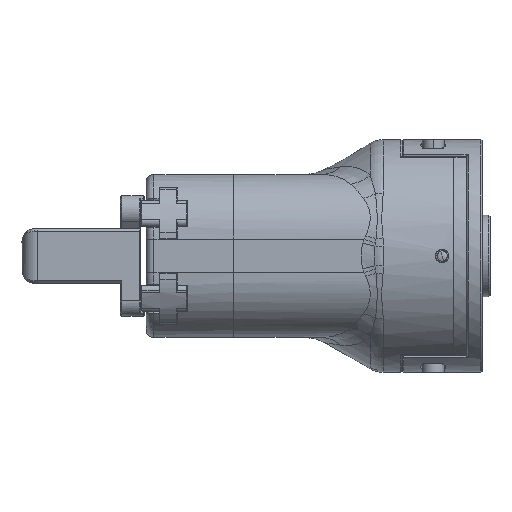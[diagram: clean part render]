
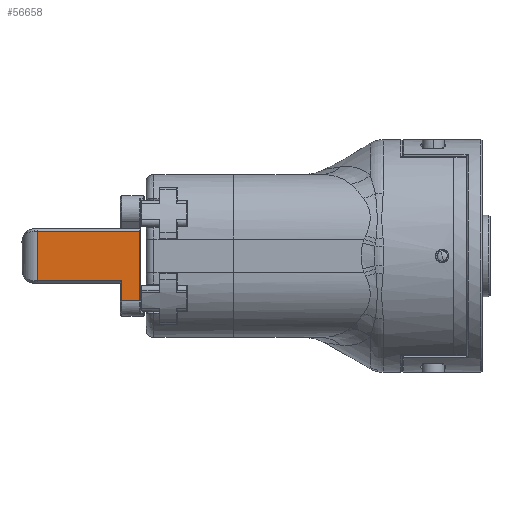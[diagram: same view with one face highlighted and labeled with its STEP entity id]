
A CAD part, left-side view. The second image highlights one B-rep face of the part: STEP entity #56658.
In plain terms, the highlighted planar face has unit normal (-1, 0, 0).
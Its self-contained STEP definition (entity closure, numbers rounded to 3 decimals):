
#67 = DIRECTION ( 'NONE',  ( 0., 0., -1. ) ) ;
#382 = CARTESIAN_POINT ( 'NONE',  ( -109.073, 45.646, 256.64 ) ) ;
#2222 = EDGE_LOOP ( 'NONE', ( #22299, #39744, #34264, #59967, #16916, #19756 ) ) ;
#3077 = DIRECTION ( 'NONE',  ( 0., 0., -1. ) ) ;
#3736 = LINE ( 'NONE', #33126, #32130 ) ;
#3967 = DIRECTION ( 'NONE',  ( 0., 0., 1. ) ) ;
#4394 = DIRECTION ( 'NONE',  ( 0., 1., 0. ) ) ;
#5394 = VERTEX_POINT ( 'NONE', #16312 ) ;
#5443 = CARTESIAN_POINT ( 'NONE',  ( -109.073, 45.646, 270.44 ) ) ;
#9751 = CARTESIAN_POINT ( 'NONE',  ( -109.073, 77.646, 300.44 ) ) ;
#9993 = DIRECTION ( 'NONE',  ( 1., 0., 0. ) ) ;
#11465 = EDGE_CURVE ( 'NONE', #5394, #57097, #38975, .T. ) ;
#12239 = VERTEX_POINT ( 'NONE', #58911 ) ;
#16013 = VECTOR ( 'NONE', #42762, 1000. ) ;
#16312 = CARTESIAN_POINT ( 'NONE',  ( -109.073, 38.146, 262.64 ) ) ;
#16387 = CARTESIAN_POINT ( 'NONE',  ( -109.073, 45.146, 270.44 ) ) ;
#16916 = ORIENTED_EDGE ( 'NONE', *, *, #50567, .T. ) ;
#17193 = EDGE_CURVE ( 'NONE', #18089, #51622, #23983, .T. ) ;
#18089 = VERTEX_POINT ( 'NONE', #23658 ) ;
#19756 = ORIENTED_EDGE ( 'NONE', *, *, #63909, .T. ) ;
#22299 = ORIENTED_EDGE ( 'NONE', *, *, #39552, .T. ) ;
#23658 = CARTESIAN_POINT ( 'NONE',  ( -109.073, 77.646, 289.54 ) ) ;
#23983 = LINE ( 'NONE', #9751, #29907 ) ;
#25701 = CARTESIAN_POINT ( 'NONE',  ( -109.073, 77.646, 270.44 ) ) ;
#26016 = VECTOR ( 'NONE', #3967, 1000. ) ;
#26414 = CARTESIAN_POINT ( 'NONE',  ( -109.073, 38.146, 289.54 ) ) ;
#29907 = VECTOR ( 'NONE', #43753, 1000. ) ;
#30266 = LINE ( 'NONE', #5443, #45888 ) ;
#31915 = CARTESIAN_POINT ( 'NONE',  ( -109.073, 45.646, 262.64 ) ) ;
#32130 = VECTOR ( 'NONE', #3077, 1000. ) ;
#33126 = CARTESIAN_POINT ( 'NONE',  ( -109.073, 45.146, 262.64 ) ) ;
#34264 = ORIENTED_EDGE ( 'NONE', *, *, #40872, .T. ) ;
#35227 = LINE ( 'NONE', #31915, #16013 ) ;
#38975 = LINE ( 'NONE', #49188, #26016 ) ;
#39552 = EDGE_CURVE ( 'NONE', #12239, #5394, #35227, .T. ) ;
#39744 = ORIENTED_EDGE ( 'NONE', *, *, #11465, .T. ) ;
#40269 = VECTOR ( 'NONE', #4394, 1000. ) ;
#40872 = EDGE_CURVE ( 'NONE', #57097, #18089, #44014, .T. ) ;
#42762 = DIRECTION ( 'NONE',  ( 0., -1., 0. ) ) ;
#43753 = DIRECTION ( 'NONE',  ( 0., 0., -1. ) ) ;
#44014 = LINE ( 'NONE', #49278, #40269 ) ;
#45888 = VECTOR ( 'NONE', #50029, 1000. ) ;
#49188 = CARTESIAN_POINT ( 'NONE',  ( -109.073, 38.146, 256.64 ) ) ;
#49278 = CARTESIAN_POINT ( 'NONE',  ( -109.073, 45.646, 289.54 ) ) ;
#49772 = VERTEX_POINT ( 'NONE', #16387 ) ;
#50029 = DIRECTION ( 'NONE',  ( 0., -1., 0. ) ) ;
#50248 = PLANE ( 'NONE',  #63994 ) ;
#50567 = EDGE_CURVE ( 'NONE', #51622, #49772, #30266, .T. ) ;
#51622 = VERTEX_POINT ( 'NONE', #25701 ) ;
#56658 = ADVANCED_FACE ( 'NONE', ( #64725 ), #50248, .F. ) ;
#57097 = VERTEX_POINT ( 'NONE', #26414 ) ;
#58911 = CARTESIAN_POINT ( 'NONE',  ( -109.073, 45.146, 262.64 ) ) ;
#59967 = ORIENTED_EDGE ( 'NONE', *, *, #17193, .T. ) ;
#63909 = EDGE_CURVE ( 'NONE', #49772, #12239, #3736, .T. ) ;
#63994 = AXIS2_PLACEMENT_3D ( 'NONE', #382, #9993, #67 ) ;
#64725 = FACE_OUTER_BOUND ( 'NONE', #2222, .T. ) ;
